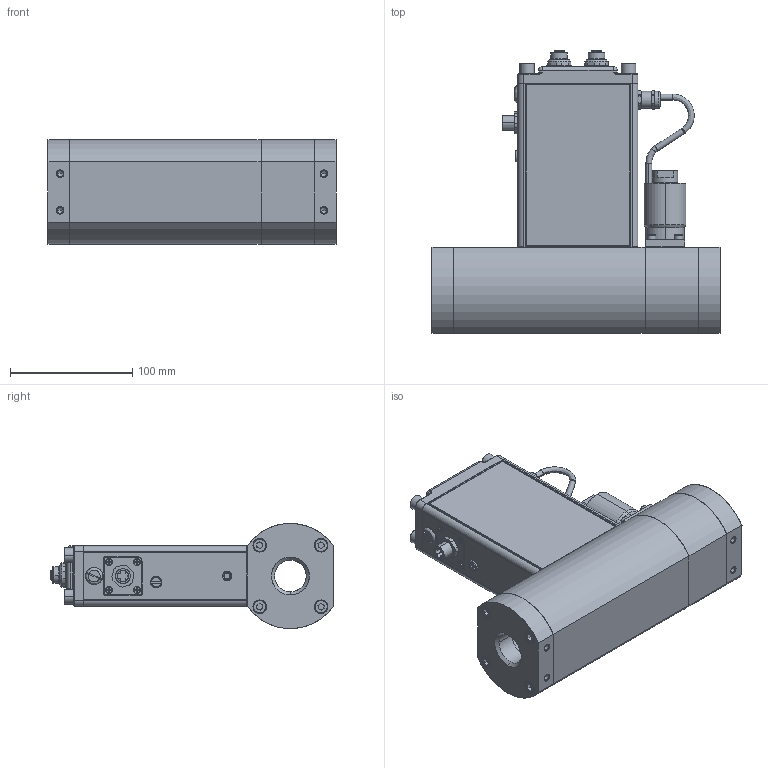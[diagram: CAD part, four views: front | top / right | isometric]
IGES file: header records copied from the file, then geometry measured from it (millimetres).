
Start section: SolidWorks IGES file using analytic representation for surfaces
Global section: file name: G:\Engineering\CAD MODELS FOR SALES\CAD MODEL STORAGE\SLA\SLAMF53\Customer Files\IGES\SLAMF53-7-2B-3-A-REVB.IGS; native system: SolidWorks 2020; preprocessor: SolidWorks 2020; author: CFehr; date: 240110.143836; units: inch
Bounding box: 235.4 x 231.16 x 86.01 mm (x, y, z)
Surface area: 310660 mm2 (no closed solid volume)
Topology: 0 solids, 0 shells, 1495 faces, 20570 edges, 20544 vertices
Faces by surface type: revolution 828, bspline 667
